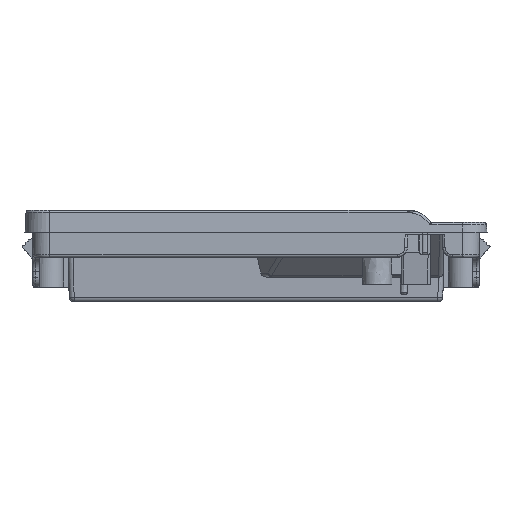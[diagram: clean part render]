
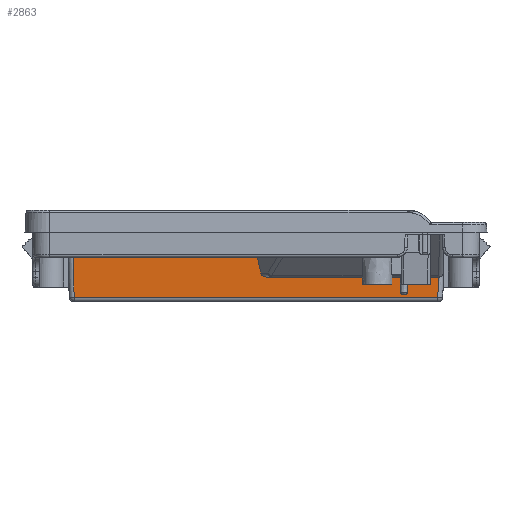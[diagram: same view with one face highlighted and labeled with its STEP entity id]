
A CAD part, front view. The second image highlights one B-rep face of the part: STEP entity #2863.
In plain terms, the highlighted planar face has unit normal (0, -1, -0.026).
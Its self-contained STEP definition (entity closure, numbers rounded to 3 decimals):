
#2863=ADVANCED_FACE('',(#9904),#9906,.T.);
#9904=FACE_BOUND('',#9905,.T.);
#9905=EDGE_LOOP('',(#16852,#16853,#16854,#16855,#16856,#16857,#16858));
#9906=PLANE('',#9907);
#9907=AXIS2_PLACEMENT_3D('',#9908,#9909,#9910);
#9908=CARTESIAN_POINT('',(-137.391,95.359,237.174));
#9909=DIRECTION('',(0.,-1.,-0.026));
#9910=DIRECTION('',(1.,0.,0.));
#16852=ORIENTED_EDGE('',*,*,#20522,.F.);
#16853=ORIENTED_EDGE('',*,*,#21214,.T.);
#16854=ORIENTED_EDGE('',*,*,#21215,.T.);
#16855=ORIENTED_EDGE('',*,*,#21216,.T.);
#16856=ORIENTED_EDGE('',*,*,#21217,.T.);
#16857=ORIENTED_EDGE('',*,*,#21218,.T.);
#16858=ORIENTED_EDGE('',*,*,#21219,.T.);
#20522=EDGE_CURVE('',#24645,#24647,#24648,.T.);
#21214=EDGE_CURVE('',#24645,#25872,#25873,.T.);
#21215=EDGE_CURVE('',#25872,#25874,#25875,.T.);
#21216=EDGE_CURVE('',#25874,#25876,#25877,.T.);
#21217=EDGE_CURVE('',#25876,#25878,#25879,.T.);
#21218=EDGE_CURVE('',#25878,#25880,#25881,.T.);
#21219=EDGE_CURVE('',#25880,#24647,#25882,.T.);
#24645=VERTEX_POINT('',#33103);
#24647=VERTEX_POINT('',#33108);
#24648=LINE('',#33109,#33110);
#25872=VERTEX_POINT('',#41554);
#25873=LINE('',#41555,#41556);
#25874=VERTEX_POINT('',#41558);
#25875=LINE('',#41559,#41560);
#25876=VERTEX_POINT('',#41562);
#25877=LINE('',#41563,#41564);
#25878=VERTEX_POINT('',#41566);
#25879=LINE('',#41567,#41568);
#25880=VERTEX_POINT('',#41570);
#25881=(BOUNDED_CURVE()B_SPLINE_CURVE(3,
(#41571,#41572,#41573,#41574),
.UNSPECIFIED.,.F.,.F.)B_SPLINE_CURVE_WITH_KNOTS((4,4),
(0.,1.),
.UNSPECIFIED.)CURVE()GEOMETRIC_REPRESENTATION_ITEM()RATIONAL_B_SPLINE_CURVE((1.,
0.844,0.844,1.))REPRESENTATION_ITEM(''));
#25882=LINE('',#41575,#41576);
#33103=CARTESIAN_POINT('',(-136.949,95.018,250.2));
#33108=CARTESIAN_POINT('',(-100.759,95.018,250.2));
#33109=CARTESIAN_POINT('',(-136.949,95.018,250.2));
#33110=VECTOR('',#33111,1.);
#33111=DIRECTION('',(1.,0.,0.));
#41554=CARTESIAN_POINT('',(-136.608,95.359,237.174));
#41555=CARTESIAN_POINT('',(-136.949,95.018,250.2));
#41556=VECTOR('',#41557,1.);
#41557=DIRECTION('',(0.026,0.026,-0.999));
#41558=CARTESIAN_POINT('',(-63.394,95.359,237.174));
#41559=CARTESIAN_POINT('',(-136.608,95.359,237.174));
#41560=VECTOR('',#41561,1.);
#41561=DIRECTION('',(1.,0.,0.));
#41562=CARTESIAN_POINT('',(-63.288,95.254,241.2));
#41563=CARTESIAN_POINT('',(-63.394,95.359,237.174));
#41564=VECTOR('',#41565,1.);
#41565=DIRECTION('',(0.026,-0.026,0.999));
#41566=CARTESIAN_POINT('',(-97.79,95.254,241.2));
#41567=CARTESIAN_POINT('',(-63.288,95.254,241.2));
#41568=VECTOR('',#41569,1.);
#41569=DIRECTION('',(-1.,0.,0.));
#41570=CARTESIAN_POINT('',(-99.057,95.232,242.026));
#41571=CARTESIAN_POINT('',(-97.79,95.254,241.2));
#41572=CARTESIAN_POINT('',(-98.452,95.254,241.2));
#41573=CARTESIAN_POINT('',(-98.953,95.245,241.526));
#41574=CARTESIAN_POINT('',(-99.057,95.232,242.026));
#41575=CARTESIAN_POINT('',(-99.057,95.232,242.026));
#41576=VECTOR('',#41577,1.);
#41577=DIRECTION('',(-0.204,-0.026,0.979));
